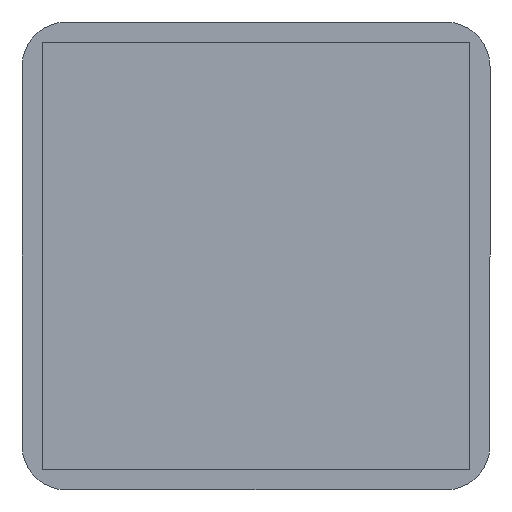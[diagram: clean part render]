
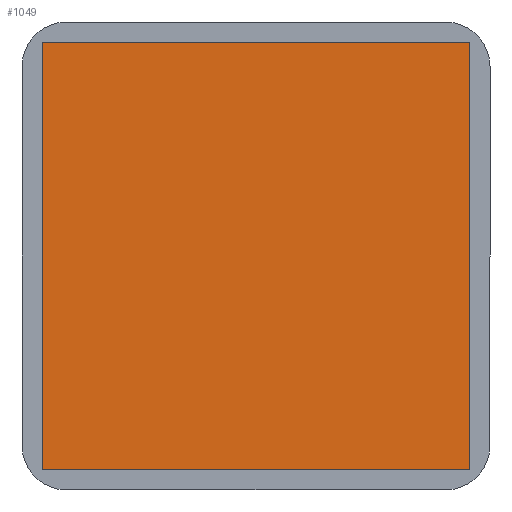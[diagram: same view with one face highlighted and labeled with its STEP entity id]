
A CAD part, front view. The second image highlights one B-rep face of the part: STEP entity #1049.
In plain terms, the highlighted planar face has unit normal (0, -1, 0).
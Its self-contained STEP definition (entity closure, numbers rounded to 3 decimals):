
#54 = CARTESIAN_POINT ( 'NONE',  ( -8.5, -0.1, 8.5 ) ) ;
#91 = CARTESIAN_POINT ( 'NONE',  ( -8.5, -0.1, 8.5 ) ) ;
#106 = LINE ( 'NONE', #91, #436 ) ;
#130 = DIRECTION ( 'NONE',  ( -1., 0., 0. ) ) ;
#189 = CARTESIAN_POINT ( 'NONE',  ( -8.5, -0.1, -8.5 ) ) ;
#326 = VERTEX_POINT ( 'NONE', #980 ) ;
#436 = VECTOR ( 'NONE', #933, 1000. ) ;
#709 = FACE_OUTER_BOUND ( 'NONE', #1139, .T. ) ;
#715 = ORIENTED_EDGE ( 'NONE', *, *, #1765, .F. ) ;
#848 = EDGE_CURVE ( 'NONE', #1435, #2653, #1582, .T. ) ;
#933 = DIRECTION ( 'NONE',  ( 1., 0., 0. ) ) ;
#959 = ORIENTED_EDGE ( 'NONE', *, *, #2192, .F. ) ;
#980 = CARTESIAN_POINT ( 'NONE',  ( 8.5, -0.1, 8.5 ) ) ;
#987 = LINE ( 'NONE', #2166, #1715 ) ;
#1049 = ADVANCED_FACE ( 'NONE', ( #709 ), #2142, .F. ) ;
#1139 = EDGE_LOOP ( 'NONE', ( #2557, #959, #1676, #715 ) ) ;
#1160 = DIRECTION ( 'NONE',  ( 0., 0., -1. ) ) ;
#1161 = DIRECTION ( 'NONE',  ( 0., 0., 1. ) ) ;
#1193 = LINE ( 'NONE', #1991, #1211 ) ;
#1211 = VECTOR ( 'NONE', #130, 1000. ) ;
#1435 = VERTEX_POINT ( 'NONE', #1780 ) ;
#1582 = LINE ( 'NONE', #189, #2097 ) ;
#1622 = VERTEX_POINT ( 'NONE', #1974 ) ;
#1676 = ORIENTED_EDGE ( 'NONE', *, *, #2161, .F. ) ;
#1715 = VECTOR ( 'NONE', #1160, 1000. ) ;
#1765 = EDGE_CURVE ( 'NONE', #2653, #326, #106, .T. ) ;
#1769 = AXIS2_PLACEMENT_3D ( 'NONE', #1926, #2180, #1161 ) ;
#1780 = CARTESIAN_POINT ( 'NONE',  ( -8.5, -0.1, -8.5 ) ) ;
#1926 = CARTESIAN_POINT ( 'NONE',  ( -8.5, -0.1, 8.5 ) ) ;
#1974 = CARTESIAN_POINT ( 'NONE',  ( 8.5, -0.1, -8.5 ) ) ;
#1991 = CARTESIAN_POINT ( 'NONE',  ( -8.5, -0.1, -8.5 ) ) ;
#2097 = VECTOR ( 'NONE', #2257, 1000. ) ;
#2142 = PLANE ( 'NONE',  #1769 ) ;
#2161 = EDGE_CURVE ( 'NONE', #326, #1622, #987, .T. ) ;
#2166 = CARTESIAN_POINT ( 'NONE',  ( 8.5, -0.1, -8.5 ) ) ;
#2180 = DIRECTION ( 'NONE',  ( 0., 1., 0. ) ) ;
#2192 = EDGE_CURVE ( 'NONE', #1622, #1435, #1193, .T. ) ;
#2257 = DIRECTION ( 'NONE',  ( 0., 0., 1. ) ) ;
#2557 = ORIENTED_EDGE ( 'NONE', *, *, #848, .F. ) ;
#2653 = VERTEX_POINT ( 'NONE', #54 ) ;
